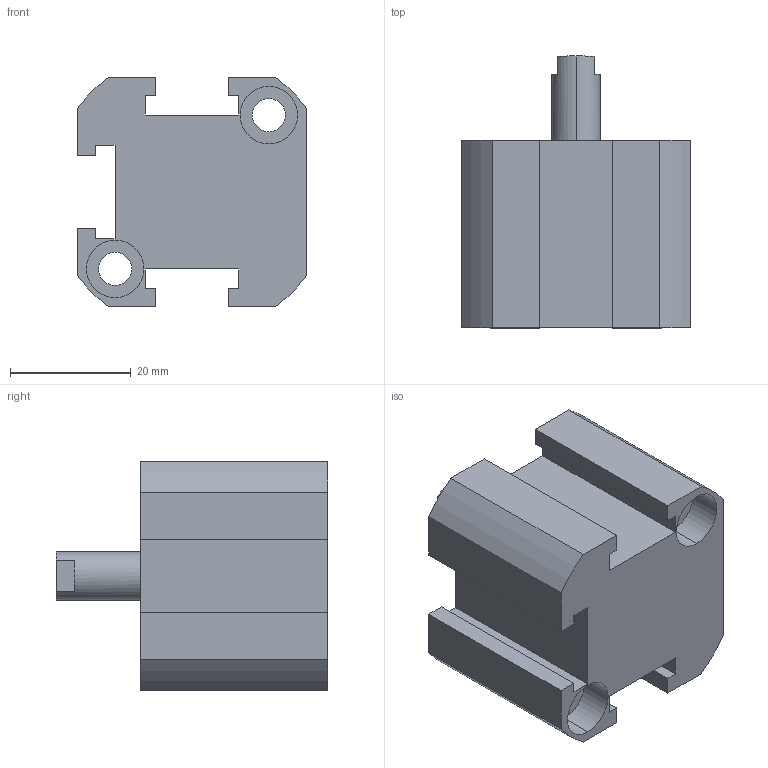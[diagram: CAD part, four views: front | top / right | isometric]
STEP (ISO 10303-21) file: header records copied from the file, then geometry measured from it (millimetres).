
FILE_DESCRIPTION (( 'STEP AP203' ), '1' );
FILE_NAME ('XC#0-20-10.STEP', '2016-05-23T06:53:08', ( '' ), ( '' ), 'SwSTEP 2.0', 'SolidWorks 2014', '' );
FILE_SCHEMA (( 'CONFIG_CONTROL_DESIGN' ));
Length unit declared in the file: millimetre
Products named in the file (1): XC#0-20-10
Bounding box: 38 x 45 x 38 mm (x, y, z)
Volume: 32670.5 mm3; surface area: 10520.2 mm2
Topology: 1 solids, 1 shells, 85 faces, 217 edges, 141 vertices
Faces by surface type: plane 44, cylinder 37, cone 4
Entity records: 2647 total; most frequent: DIRECTION 464, CARTESIAN_POINT 440, ORIENTED_EDGE 426, EDGE_CURVE 213, AXIS2_PLACEMENT_3D 165, VERTEX_POINT 141, LINE 134, VECTOR 134
